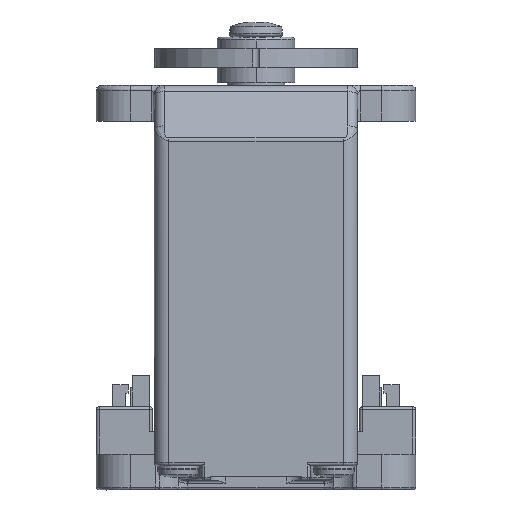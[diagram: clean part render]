
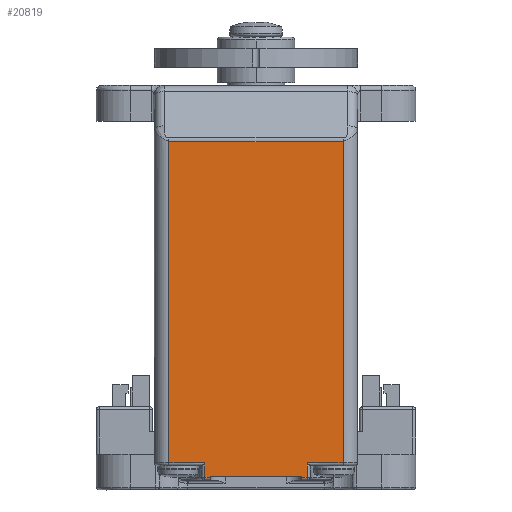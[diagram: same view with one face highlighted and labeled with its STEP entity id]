
A CAD part, front view. The second image highlights one B-rep face of the part: STEP entity #20819.
In plain terms, the highlighted planar face has unit normal (0, -1, 0).
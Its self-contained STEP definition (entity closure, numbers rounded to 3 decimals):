
#586 = CARTESIAN_POINT ( 'NONE',  ( 4.7, -10.3, -40.4 ) ) ;
#1138 = AXIS2_PLACEMENT_3D ( 'NONE', #2747, #21538, #29075 ) ;
#1304 = VERTEX_POINT ( 'NONE', #15021 ) ;
#1409 = CARTESIAN_POINT ( 'NONE',  ( 5.3, -10.3, -40.8 ) ) ;
#1721 = EDGE_CURVE ( 'NONE', #2854, #10266, #16027, .T. ) ;
#1986 = CARTESIAN_POINT ( 'NONE',  ( -9., -10.3, -39. ) ) ;
#2427 = DIRECTION ( 'NONE',  ( 0., 0., 1. ) ) ;
#2682 = DIRECTION ( 'NONE',  ( 1., 0., 0. ) ) ;
#2747 = CARTESIAN_POINT ( 'NONE',  ( -5.45, -10.3, -40.8 ) ) ;
#2854 = VERTEX_POINT ( 'NONE', #9311 ) ;
#3498 = VERTEX_POINT ( 'NONE', #1986 ) ;
#3602 = EDGE_CURVE ( 'NONE', #23664, #17580, #24528, .T. ) ;
#4090 = VERTEX_POINT ( 'NONE', #19922 ) ;
#4608 = ORIENTED_EDGE ( 'NONE', *, *, #29375, .T. ) ;
#4689 = LINE ( 'NONE', #9715, #18834 ) ;
#4943 = PLANE ( 'NONE',  #1138 ) ;
#4961 = VECTOR ( 'NONE', #2427, 1000. ) ;
#5040 = EDGE_CURVE ( 'NONE', #1304, #11588, #6163, .T. ) ;
#5643 = ORIENTED_EDGE ( 'NONE', *, *, #27946, .T. ) ;
#6163 = LINE ( 'NONE', #24812, #7850 ) ;
#6184 = EDGE_CURVE ( 'NONE', #10266, #23664, #10886, .T. ) ;
#6265 = DIRECTION ( 'NONE',  ( 0., 0., 1. ) ) ;
#6507 = CARTESIAN_POINT ( 'NONE',  ( -4.7, -10.3, -40.4 ) ) ;
#6933 = ORIENTED_EDGE ( 'NONE', *, *, #9394, .T. ) ;
#7255 = VECTOR ( 'NONE', #16858, 1000. ) ;
#7305 = CARTESIAN_POINT ( 'NONE',  ( -5.45, -10.3, -40.4 ) ) ;
#7850 = VECTOR ( 'NONE', #25267, 1000. ) ;
#8386 = VECTOR ( 'NONE', #29852, 1000. ) ;
#8440 = ORIENTED_EDGE ( 'NONE', *, *, #6184, .T. ) ;
#8455 = VERTEX_POINT ( 'NONE', #24500 ) ;
#8521 = ORIENTED_EDGE ( 'NONE', *, *, #29884, .T. ) ;
#9043 = CARTESIAN_POINT ( 'NONE',  ( -5.45, -10.3, -5.793 ) ) ;
#9311 = CARTESIAN_POINT ( 'NONE',  ( -5.3, -10.3, -40.5 ) ) ;
#9394 = EDGE_CURVE ( 'NONE', #3498, #24799, #21625, .T. ) ;
#9512 = DIRECTION ( 'NONE',  ( -1., 0., 0. ) ) ;
#9680 = CARTESIAN_POINT ( 'NONE',  ( -5.45, -10.3, -39. ) ) ;
#9715 = CARTESIAN_POINT ( 'NONE',  ( 4.7, -10.3, -40.4 ) ) ;
#9793 = EDGE_CURVE ( 'NONE', #17580, #1304, #4689, .T. ) ;
#9993 = LINE ( 'NONE', #9680, #15457 ) ;
#10266 = VERTEX_POINT ( 'NONE', #27520 ) ;
#10822 = VECTOR ( 'NONE', #2682, 1000. ) ;
#10886 = LINE ( 'NONE', #6507, #8386 ) ;
#11200 = VECTOR ( 'NONE', #9512, 1000. ) ;
#11217 = LINE ( 'NONE', #25476, #26191 ) ;
#11425 = ORIENTED_EDGE ( 'NONE', *, *, #5040, .T. ) ;
#11588 = VERTEX_POINT ( 'NONE', #29026 ) ;
#12954 = VECTOR ( 'NONE', #13662, 1000. ) ;
#13662 = DIRECTION ( 'NONE',  ( 1., 0., 0. ) ) ;
#13801 = ORIENTED_EDGE ( 'NONE', *, *, #18907, .T. ) ;
#14397 = DIRECTION ( 'NONE',  ( 0., 0., -1. ) ) ;
#15021 = CARTESIAN_POINT ( 'NONE',  ( 4.7, -10.3, -40.5 ) ) ;
#15354 = ORIENTED_EDGE ( 'NONE', *, *, #26137, .F. ) ;
#15381 = CARTESIAN_POINT ( 'NONE',  ( -5.3, -10.3, -40.8 ) ) ;
#15457 = VECTOR ( 'NONE', #19520, 1000. ) ;
#15729 = VECTOR ( 'NONE', #29494, 1000. ) ;
#15812 = EDGE_LOOP ( 'NONE', ( #27266, #11425, #13801, #4608, #8521, #26153, #15354, #6933, #5643, #22783, #8440, #21116 ) ) ;
#16027 = LINE ( 'NONE', #25902, #12954 ) ;
#16311 = EDGE_CURVE ( 'NONE', #23407, #8455, #21081, .T. ) ;
#16573 = VECTOR ( 'NONE', #6265, 1000. ) ;
#16844 = CARTESIAN_POINT ( 'NONE',  ( 9., -10.3, -40.8 ) ) ;
#16858 = DIRECTION ( 'NONE',  ( 1., 0., 0. ) ) ;
#17580 = VERTEX_POINT ( 'NONE', #586 ) ;
#18212 = CARTESIAN_POINT ( 'NONE',  ( -4.7, -10.3, -40.4 ) ) ;
#18834 = VECTOR ( 'NONE', #14397, 1000. ) ;
#18907 = EDGE_CURVE ( 'NONE', #11588, #21299, #27264, .T. ) ;
#19324 = CARTESIAN_POINT ( 'NONE',  ( 9., -10.3, -5.793 ) ) ;
#19500 = FACE_OUTER_BOUND ( 'NONE', #15812, .T. ) ;
#19520 = DIRECTION ( 'NONE',  ( 1., 0., 0. ) ) ;
#19736 = CARTESIAN_POINT ( 'NONE',  ( -5.45, -10.3, -39. ) ) ;
#19922 = CARTESIAN_POINT ( 'NONE',  ( 9., -10.3, -39. ) ) ;
#20819 = ADVANCED_FACE ( 'NONE', ( #19500 ), #4943, .T. ) ;
#21081 = LINE ( 'NONE', #9043, #11200 ) ;
#21116 = ORIENTED_EDGE ( 'NONE', *, *, #3602, .T. ) ;
#21299 = VERTEX_POINT ( 'NONE', #27124 ) ;
#21538 = DIRECTION ( 'NONE',  ( 0., -1., 0. ) ) ;
#21625 = LINE ( 'NONE', #19736, #10822 ) ;
#21800 = CARTESIAN_POINT ( 'NONE',  ( -5.3, -10.3, -39. ) ) ;
#22783 = ORIENTED_EDGE ( 'NONE', *, *, #1721, .T. ) ;
#23407 = VERTEX_POINT ( 'NONE', #19324 ) ;
#23664 = VERTEX_POINT ( 'NONE', #18212 ) ;
#24500 = CARTESIAN_POINT ( 'NONE',  ( -9., -10.3, -5.793 ) ) ;
#24528 = LINE ( 'NONE', #7305, #7255 ) ;
#24799 = VERTEX_POINT ( 'NONE', #21800 ) ;
#24812 = CARTESIAN_POINT ( 'NONE',  ( -5.45, -10.3, -40.5 ) ) ;
#25267 = DIRECTION ( 'NONE',  ( 1., 0., 0. ) ) ;
#25476 = CARTESIAN_POINT ( 'NONE',  ( -9., -10.3, -37.5 ) ) ;
#25902 = CARTESIAN_POINT ( 'NONE',  ( -5.45, -10.3, -40.5 ) ) ;
#26137 = EDGE_CURVE ( 'NONE', #3498, #8455, #11217, .T. ) ;
#26153 = ORIENTED_EDGE ( 'NONE', *, *, #16311, .T. ) ;
#26191 = VECTOR ( 'NONE', #28286, 1000. ) ;
#26258 = LINE ( 'NONE', #16844, #4961 ) ;
#27124 = CARTESIAN_POINT ( 'NONE',  ( 5.3, -10.3, -39. ) ) ;
#27264 = LINE ( 'NONE', #1409, #16573 ) ;
#27266 = ORIENTED_EDGE ( 'NONE', *, *, #9793, .T. ) ;
#27520 = CARTESIAN_POINT ( 'NONE',  ( -4.7, -10.3, -40.5 ) ) ;
#27946 = EDGE_CURVE ( 'NONE', #24799, #2854, #29339, .T. ) ;
#28286 = DIRECTION ( 'NONE',  ( 0., 0., 1. ) ) ;
#29026 = CARTESIAN_POINT ( 'NONE',  ( 5.3, -10.3, -40.5 ) ) ;
#29075 = DIRECTION ( 'NONE',  ( 0., 0., -1. ) ) ;
#29339 = LINE ( 'NONE', #15381, #15729 ) ;
#29375 = EDGE_CURVE ( 'NONE', #21299, #4090, #9993, .T. ) ;
#29494 = DIRECTION ( 'NONE',  ( 0., 0., -1. ) ) ;
#29852 = DIRECTION ( 'NONE',  ( 0., 0., 1. ) ) ;
#29884 = EDGE_CURVE ( 'NONE', #4090, #23407, #26258, .T. ) ;
